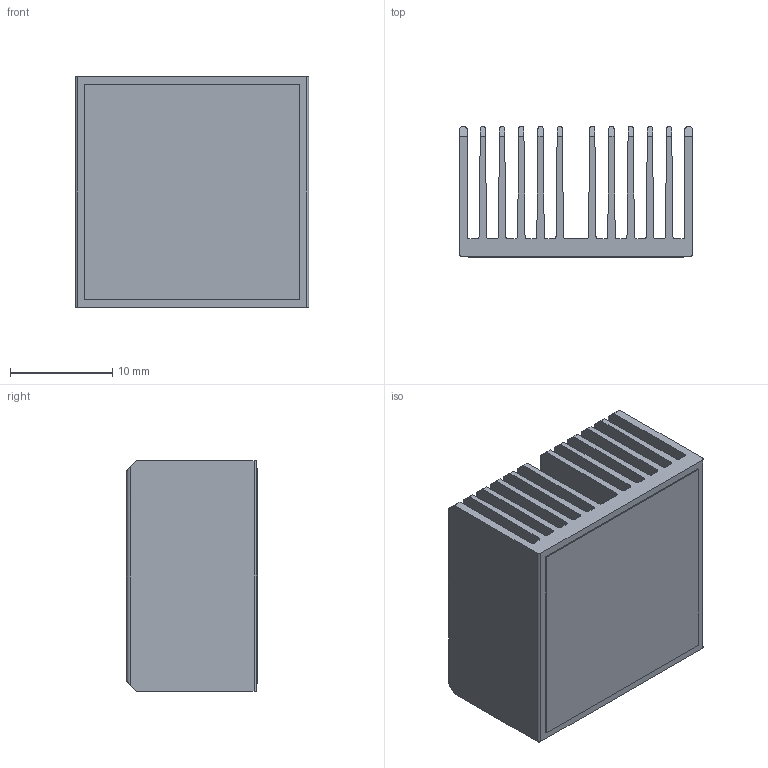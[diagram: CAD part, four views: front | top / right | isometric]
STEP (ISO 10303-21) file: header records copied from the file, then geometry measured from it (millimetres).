
FILE_DESCRIPTION (( 'STEP AP214' ), '1' );
FILE_NAME ('INL23001-13-1.7.STEP', '2023-02-21T17:22:14', ( '' ), ( '' ), 'SwSTEP 2.0', 'SolidWorks 2020', '' );
FILE_SCHEMA (( 'AUTOMOTIVE_DESIGN' ));
Length unit declared in the file: millimetre
Products named in the file (1): INL23001-13-1.7
Bounding box: 22.8 x 12.8 x 22.5 mm (x, y, z)
Volume: 2818.8 mm3; surface area: 7982 mm2
Topology: 2 solids, 2 shells, 104 faces, 300 edges, 200 vertices
Faces by surface type: plane 68, cylinder 36
Entity records: 4579 total; most frequent: CARTESIAN_POINT 677, ORIENTED_EDGE 600, DIRECTION 534, EDGE_CURVE 300, LINE 228, VECTOR 228, VERTEX_POINT 200, AXIS2_PLACEMENT_3D 153
